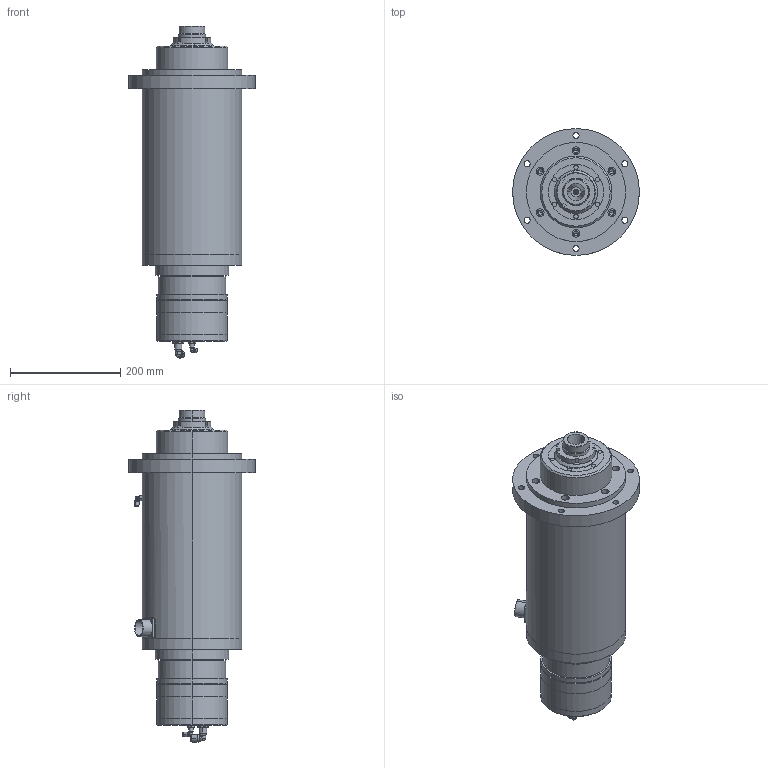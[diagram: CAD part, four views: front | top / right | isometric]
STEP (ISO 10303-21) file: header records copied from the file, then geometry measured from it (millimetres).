
FILE_DESCRIPTION (( 'STEP AP203' ), '1' );
FILE_NAME ('6YL BT30 SU SOGUTMALI MOTOR.STEP', '2019-11-28T06:12:10', ( '' ), ( '' ), 'SwSTEP 2.0', 'SolidWorks 2014', '' );
FILE_SCHEMA (( 'CONFIG_CONTROL_DESIGN' ));
Length unit declared in the file: millimetre
Products named in the file (16): Soket; 6YL BT30 SUS SOGUTMALI MIL; 6YL BT30 SU SOGUTMALI MOTOR; 3139_04_00_02; 6YL BT30 ÖN KAPAK YENÝ; 6YL BT30 SUS SOGUTMALI ARKA KAPAK; PISTON GOVDE 2; 6YL BT30 SUS SOGUTMALI CEKET GOVDE; TOZ KAPAGI; 3139_08_00_02; PISTON GOVDESI BT30; PISTON KAPAGI; ON KAPAK 2; PISTON GOVDE MONTAJI BT30; 6YL BT30 SUS SOGUTMALI ANA GOVDE; TOZ KAPAGI SOMUNU
Assembly tree (17 placements, depth 3):
  6YL BT30 SU SOGUTMALI MOTOR
    6YL BT30 SUS SOGUTMALI ANA GOVDE
    6YL BT30 SUS SOGUTMALI CEKET GOVDE
    6YL BT30 SUS SOGUTMALI ARKA KAPAK
    TOZ KAPAGI
    ON KAPAK 2
    3139_08_00_02
    3139_04_00_02  x3
    TOZ KAPAGI SOMUNU
    Soket
    6YL BT30 SUS SOGUTMALI MIL
    PISTON GOVDE MONTAJI BT30
      PISTON GOVDESI BT30
      PISTON GOVDE 2
      PISTON KAPAGI
    6YL BT30 ÖN KAPAK YENÝ
Bounding box: 230 x 230 x 602.25 mm (x, y, z)
Volume: 6321070.9 mm3; surface area: 1317919.5 mm2
Topology: 16 solids, 16 shells, 1112 faces, 2472 edges, 1538 vertices
Faces by surface type: cylinder 644, plane 253, cone 141, torus 66, sphere 8
Entity records: 29862 total; most frequent: CARTESIAN_POINT 5697, DIRECTION 5230, ORIENTED_EDGE 4184, AXIS2_PLACEMENT_3D 2251, EDGE_CURVE 2092, VERTEX_POINT 1344, EDGE_LOOP 1284, CIRCLE 1272
